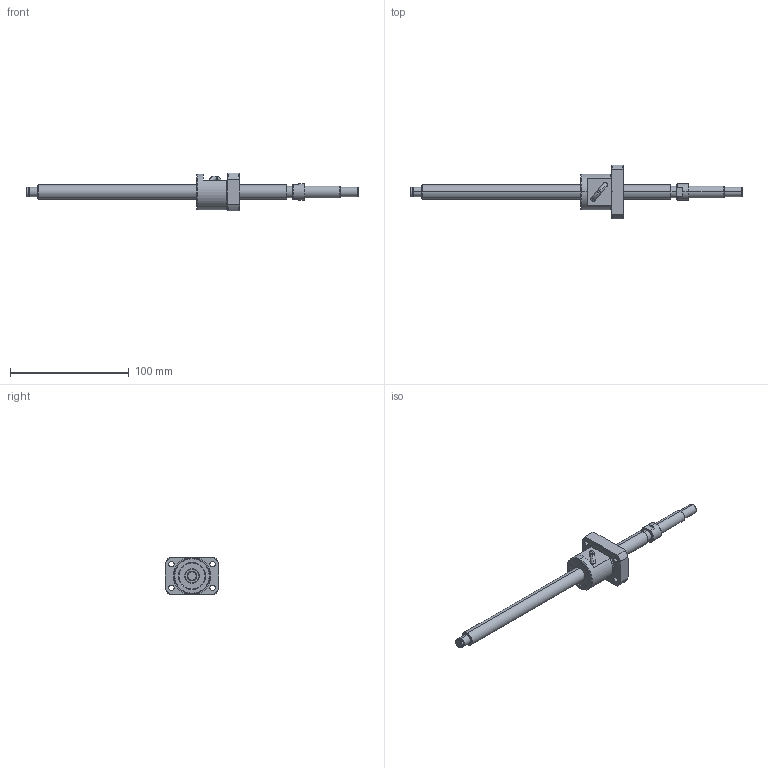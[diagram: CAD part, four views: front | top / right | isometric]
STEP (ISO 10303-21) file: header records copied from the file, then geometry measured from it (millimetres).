
FILE_DESCRIPTION (( 'STEP AP214' ), '1' );
FILE_NAME ('BS1204A-3D.STEP', '2014-03-07T18:05:25', ( '' ), ( '' ), 'SwSTEP 2.0', 'SolidWorks 2012', '' );
FILE_SCHEMA (( 'AUTOMOTIVE_DESIGN' ));
Length unit declared in the file: millimetre
Products named in the file (3): BS1204AŽ²; BS1204Aナット; BS1204A-3D
Assembly tree (2 placements, depth 2):
  BS1204A-3D
    BS1204Aナット
    BS1204AŽ²
Bounding box: 280 x 45 x 32 mm (x, y, z)
Volume: 53634 mm3; surface area: 21963.2 mm2
Topology: 5 solids, 5 shells, 163 faces, 405 edges, 261 vertices
Faces by surface type: cylinder 78, plane 45, cone 34, torus 4, bspline 2
Entity records: 6271 total; most frequent: CARTESIAN_POINT 2126, DIRECTION 864, ORIENTED_EDGE 806, EDGE_CURVE 403, AXIS2_PLACEMENT_3D 363, VERTEX_POINT 261, EDGE_LOOP 198, CIRCLE 197
